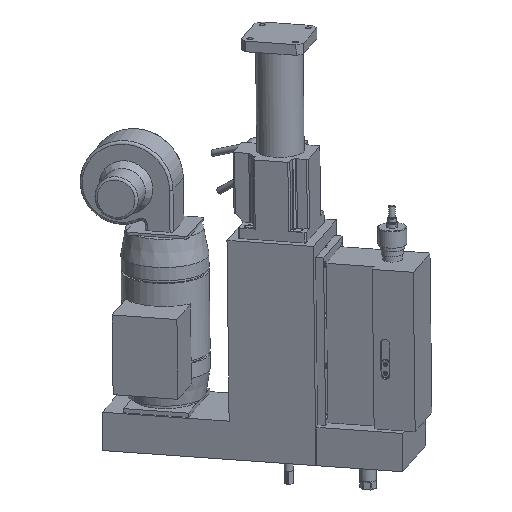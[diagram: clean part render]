
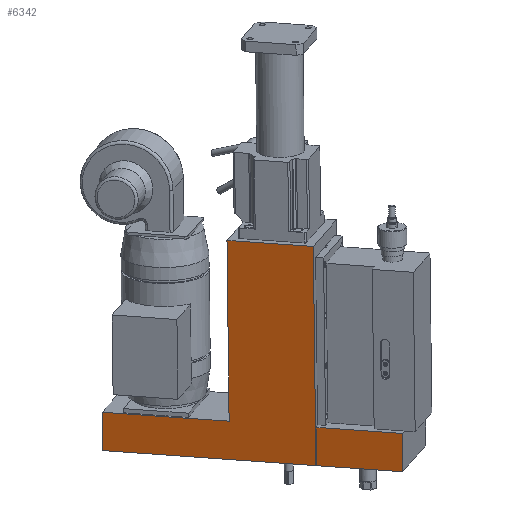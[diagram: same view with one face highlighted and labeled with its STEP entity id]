
A CAD part, isometric view. The second image highlights one B-rep face of the part: STEP entity #6342.
In plain terms, the highlighted planar face has unit normal (-0.834, -0.47, 0.288).
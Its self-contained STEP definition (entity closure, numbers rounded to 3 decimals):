
#5478=CARTESIAN_POINT('',(67.707,-487.236,-589.888));
#5479=VERTEX_POINT('',#5478);
#5496=CARTESIAN_POINT('',(67.195,-486.381,-589.975));
#5497=VERTEX_POINT('',#5496);
#5504=CARTESIAN_POINT('',(67.707,-487.236,-589.888));
#5505=DIRECTION('',(-0.512,0.855,-0.088));
#5506=VECTOR('',#5505,1.);
#5507=LINE('',#5504,#5506);
#5508=EDGE_CURVE('',#5479,#5497,#5507,.T.);
#5520=CARTESIAN_POINT('',(-135.39,-149.258,-626.527));
#5521=VERTEX_POINT('',#5520);
#5536=CARTESIAN_POINT('',(149.192,-624.412,-577.762));
#5537=VERTEX_POINT('',#5536);
#5544=CARTESIAN_POINT('',(-135.39,-149.258,-626.527));
#5545=DIRECTION('',(0.512,-0.855,0.088));
#5546=VECTOR('',#5545,556.0);
#5547=LINE('',#5544,#5546);
#5548=EDGE_CURVE('',#5521,#5537,#5547,.T.);
#6257=CARTESIAN_POINT('',(82.031,-471.806,-523.129));
#6258=VERTEX_POINT('',#6257);
#6265=CARTESIAN_POINT('',(163.925,-608.541,-509.096));
#6266=VERTEX_POINT('',#6265);
#6267=CARTESIAN_POINT('',(163.925,-608.541,-509.096));
#6268=DIRECTION('',(-0.512,0.855,-0.088));
#6269=VECTOR('',#6268,160.);
#6270=LINE('',#6267,#6269);
#6271=EDGE_CURVE('',#6266,#6258,#6270,.T.);
#6282=CARTESIAN_POINT('',(149.601,-623.971,-575.855));
#6283=DIRECTION('',(-0.834,-0.47,0.288));
#6284=DIRECTION('',(-0.205,-0.22,-0.954));
#6285=AXIS2_PLACEMENT_3D('',#6282,#6283,#6284);
#6286=PLANE('',#6285);
#6287=ORIENTED_EDGE('',*,*,#6271,.T.);
#6288=CARTESIAN_POINT('',(67.707,-487.236,-589.888));
#6289=DIRECTION('',(0.205,0.22,0.954));
#6290=VECTOR('',#6289,70.);
#6291=LINE('',#6288,#6290);
#6292=EDGE_CURVE('',#5479,#6258,#6291,.T.);
#6293=ORIENTED_EDGE('',*,*,#6292,.F.);
#6294=ORIENTED_EDGE('',*,*,#5508,.T.);
#6295=CARTESIAN_POINT('',(151.09,-396.005,-198.959));
#6296=VERTEX_POINT('',#6295);
#6297=CARTESIAN_POINT('',(151.09,-396.005,-198.959));
#6298=DIRECTION('',(-0.205,-0.22,-0.954));
#6299=VECTOR('',#6298,410.);
#6300=LINE('',#6297,#6299);
#6301=EDGE_CURVE('',#6296,#5497,#6300,.T.);
#6302=ORIENTED_EDGE('',*,*,#6301,.F.);
#6303=CARTESIAN_POINT('',(69.196,-259.27,-212.992));
#6304=VERTEX_POINT('',#6303);
#6305=CARTESIAN_POINT('',(69.196,-259.27,-212.992));
#6306=DIRECTION('',(0.512,-0.855,0.088));
#6307=VECTOR('',#6306,160.0);
#6308=LINE('',#6305,#6307);
#6309=EDGE_CURVE('',#6304,#6296,#6308,.T.);
#6310=ORIENTED_EDGE('',*,*,#6309,.F.);
#6311=CARTESIAN_POINT('',(-0.376,-334.216,-537.249));
#6312=VERTEX_POINT('',#6311);
#6313=CARTESIAN_POINT('',(69.196,-259.27,-212.992));
#6314=DIRECTION('',(-0.205,-0.22,-0.954));
#6315=VECTOR('',#6314,340.);
#6316=LINE('',#6313,#6315);
#6317=EDGE_CURVE('',#6304,#6312,#6316,.T.);
#6318=ORIENTED_EDGE('',*,*,#6317,.T.);
#6319=CARTESIAN_POINT('',(-120.658,-133.387,-557.86));
#6320=VERTEX_POINT('',#6319);
#6321=CARTESIAN_POINT('',(-0.376,-334.216,-537.249));
#6322=DIRECTION('',(-0.512,0.855,-0.088));
#6323=VECTOR('',#6322,235.);
#6324=LINE('',#6321,#6323);
#6325=EDGE_CURVE('',#6312,#6320,#6324,.T.);
#6326=ORIENTED_EDGE('',*,*,#6325,.T.);
#6327=CARTESIAN_POINT('',(-135.39,-149.258,-626.527));
#6328=DIRECTION('',(0.205,0.22,0.954));
#6329=VECTOR('',#6328,72.);
#6330=LINE('',#6327,#6329);
#6331=EDGE_CURVE('',#5521,#6320,#6330,.T.);
#6332=ORIENTED_EDGE('',*,*,#6331,.F.);
#6333=ORIENTED_EDGE('',*,*,#5548,.T.);
#6334=CARTESIAN_POINT('',(149.192,-624.412,-577.762));
#6335=DIRECTION('',(0.205,0.22,0.954));
#6336=VECTOR('',#6335,72.);
#6337=LINE('',#6334,#6336);
#6338=EDGE_CURVE('',#5537,#6266,#6337,.T.);
#6339=ORIENTED_EDGE('',*,*,#6338,.T.);
#6340=EDGE_LOOP('',(#6287,#6293,#6294,#6302,#6310,#6318,#6326,#6332,#6333,#6339));
#6341=FACE_OUTER_BOUND('',#6340,.T.);
#6342=ADVANCED_FACE('',(#6341),#6286,.T.);
